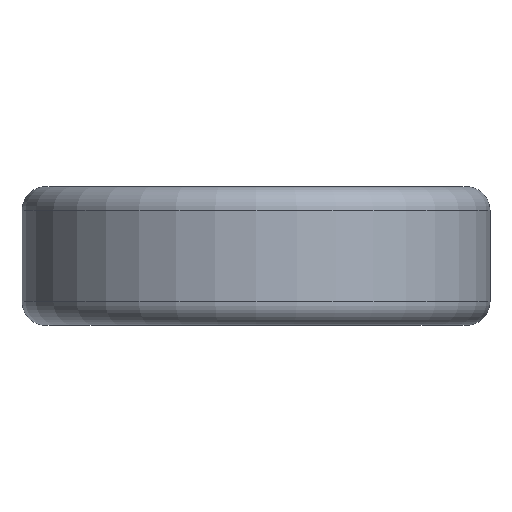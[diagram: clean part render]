
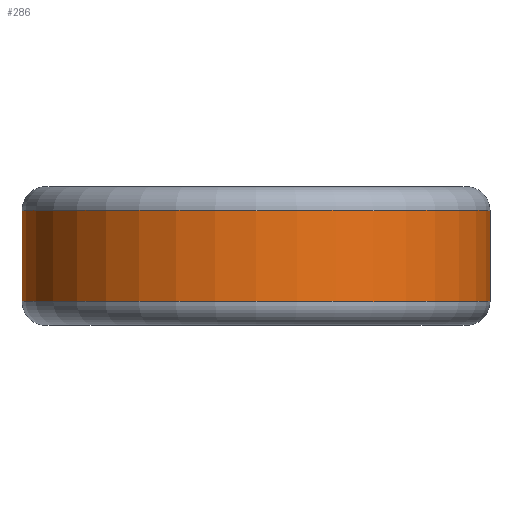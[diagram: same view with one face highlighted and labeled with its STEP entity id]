
A CAD part, front view. The second image highlights one B-rep face of the part: STEP entity #286.
In plain terms, the highlighted cylindrical face has radius 5.4 mm (diameter 10.8 mm), a full revolution.
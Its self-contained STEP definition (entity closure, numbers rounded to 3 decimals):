
#129 = TOROIDAL_SURFACE('',#130,4.85,0.55);
#130 = AXIS2_PLACEMENT_3D('',#131,#132,#133);
#131 = CARTESIAN_POINT('',(0.,0.,0.85));
#132 = DIRECTION('',(0.,0.,1.));
#133 = DIRECTION('',(1.,0.,-0.));
#181 = VERTEX_POINT('',#182);
#182 = CARTESIAN_POINT('',(5.4,0.,0.85));
#204 = EDGE_CURVE('',#181,#181,#205,.T.);
#205 = SURFACE_CURVE('',#206,(#211,#218),.PCURVE_S1.);
#206 = CIRCLE('',#207,5.4);
#207 = AXIS2_PLACEMENT_3D('',#208,#209,#210);
#208 = CARTESIAN_POINT('',(0.,0.,0.85));
#209 = DIRECTION('',(0.,0.,1.));
#210 = DIRECTION('',(1.,0.,-0.));
#211 = PCURVE('',#129,#212);
#212 = DEFINITIONAL_REPRESENTATION('',(#213),#217);
#213 = LINE('',#214,#215);
#214 = CARTESIAN_POINT('',(0.,6.283));
#215 = VECTOR('',#216,1.);
#216 = DIRECTION('',(1.,0.));
#217 = ( GEOMETRIC_REPRESENTATION_CONTEXT(2) 
PARAMETRIC_REPRESENTATION_CONTEXT() REPRESENTATION_CONTEXT('2D SPACE',''
  ) );
#218 = PCURVE('',#219,#224);
#219 = CYLINDRICAL_SURFACE('',#220,5.4);
#220 = AXIS2_PLACEMENT_3D('',#221,#222,#223);
#221 = CARTESIAN_POINT('',(0.,0.,1.9));
#222 = DIRECTION('',(0.,0.,1.));
#223 = DIRECTION('',(1.,0.,-0.));
#224 = DEFINITIONAL_REPRESENTATION('',(#225),#229);
#225 = LINE('',#226,#227);
#226 = CARTESIAN_POINT('',(0.,-1.05));
#227 = VECTOR('',#228,1.);
#228 = DIRECTION('',(1.,0.));
#229 = ( GEOMETRIC_REPRESENTATION_CONTEXT(2) 
PARAMETRIC_REPRESENTATION_CONTEXT() REPRESENTATION_CONTEXT('2D SPACE',''
  ) );
#286 = ADVANCED_FACE('',(#287),#219,.T.);
#287 = FACE_BOUND('',#288,.T.);
#288 = EDGE_LOOP('',(#289,#290,#313,#340));
#289 = ORIENTED_EDGE('',*,*,#204,.T.);
#290 = ORIENTED_EDGE('',*,*,#291,.T.);
#291 = EDGE_CURVE('',#181,#292,#294,.T.);
#292 = VERTEX_POINT('',#293);
#293 = CARTESIAN_POINT('',(5.4,0.,2.95));
#294 = SEAM_CURVE('',#295,(#299,#306),.PCURVE_S1.);
#295 = LINE('',#296,#297);
#296 = CARTESIAN_POINT('',(5.4,0.,1.9));
#297 = VECTOR('',#298,1.);
#298 = DIRECTION('',(0.,0.,1.));
#299 = PCURVE('',#219,#300);
#300 = DEFINITIONAL_REPRESENTATION('',(#301),#305);
#301 = LINE('',#302,#303);
#302 = CARTESIAN_POINT('',(0.,0.));
#303 = VECTOR('',#304,1.);
#304 = DIRECTION('',(0.,1.));
#305 = ( GEOMETRIC_REPRESENTATION_CONTEXT(2) 
PARAMETRIC_REPRESENTATION_CONTEXT() REPRESENTATION_CONTEXT('2D SPACE',''
  ) );
#306 = PCURVE('',#219,#307);
#307 = DEFINITIONAL_REPRESENTATION('',(#308),#312);
#308 = LINE('',#309,#310);
#309 = CARTESIAN_POINT('',(6.283,0.));
#310 = VECTOR('',#311,1.);
#311 = DIRECTION('',(0.,1.));
#312 = ( GEOMETRIC_REPRESENTATION_CONTEXT(2) 
PARAMETRIC_REPRESENTATION_CONTEXT() REPRESENTATION_CONTEXT('2D SPACE',''
  ) );
#313 = ORIENTED_EDGE('',*,*,#314,.F.);
#314 = EDGE_CURVE('',#292,#292,#315,.T.);
#315 = SURFACE_CURVE('',#316,(#321,#328),.PCURVE_S1.);
#316 = CIRCLE('',#317,5.4);
#317 = AXIS2_PLACEMENT_3D('',#318,#319,#320);
#318 = CARTESIAN_POINT('',(0.,0.,2.95));
#319 = DIRECTION('',(0.,0.,1.));
#320 = DIRECTION('',(1.,0.,-0.));
#321 = PCURVE('',#219,#322);
#322 = DEFINITIONAL_REPRESENTATION('',(#323),#327);
#323 = LINE('',#324,#325);
#324 = CARTESIAN_POINT('',(0.,1.05));
#325 = VECTOR('',#326,1.);
#326 = DIRECTION('',(1.,0.));
#327 = ( GEOMETRIC_REPRESENTATION_CONTEXT(2) 
PARAMETRIC_REPRESENTATION_CONTEXT() REPRESENTATION_CONTEXT('2D SPACE',''
  ) );
#328 = PCURVE('',#329,#334);
#329 = TOROIDAL_SURFACE('',#330,4.85,0.55);
#330 = AXIS2_PLACEMENT_3D('',#331,#332,#333);
#331 = CARTESIAN_POINT('',(0.,0.,2.95));
#332 = DIRECTION('',(0.,0.,1.));
#333 = DIRECTION('',(1.,0.,-0.));
#334 = DEFINITIONAL_REPRESENTATION('',(#335),#339);
#335 = LINE('',#336,#337);
#336 = CARTESIAN_POINT('',(0.,0.));
#337 = VECTOR('',#338,1.);
#338 = DIRECTION('',(1.,0.));
#339 = ( GEOMETRIC_REPRESENTATION_CONTEXT(2) 
PARAMETRIC_REPRESENTATION_CONTEXT() REPRESENTATION_CONTEXT('2D SPACE',''
  ) );
#340 = ORIENTED_EDGE('',*,*,#291,.F.);
